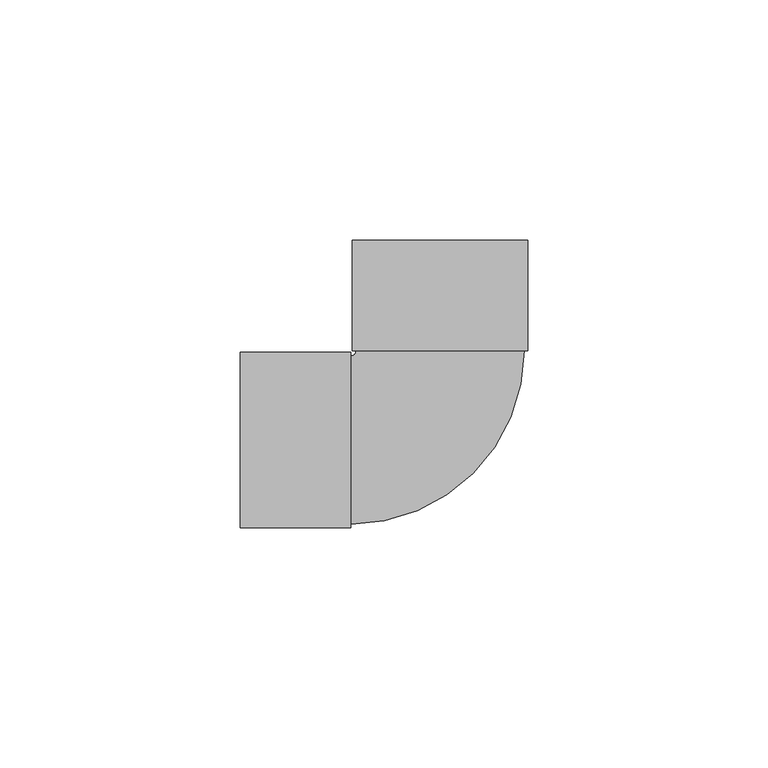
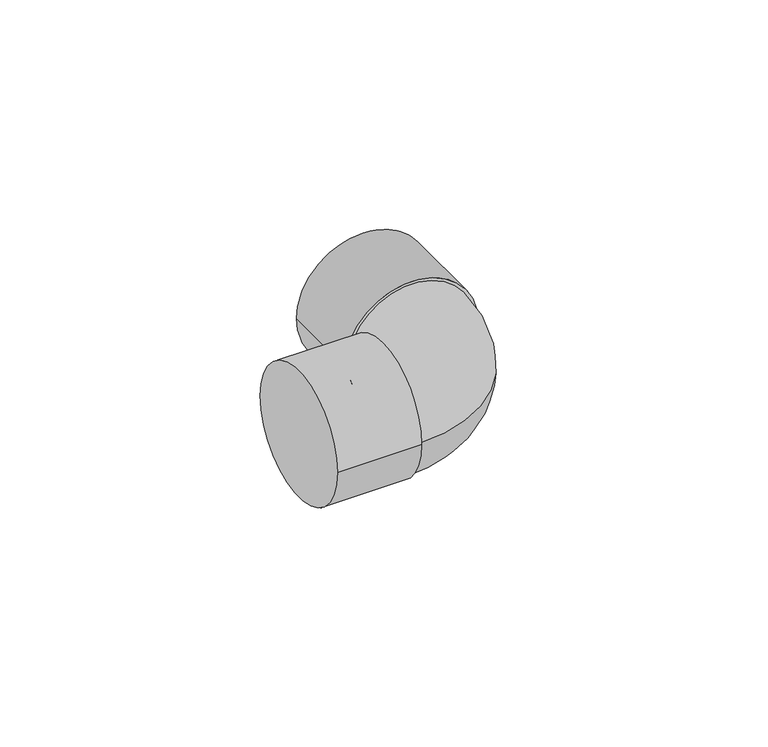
"""IFC4 building model written with IfcOpenShell, lengths in millimetres: pipe fitting geometry, Cotovelo - Soldado - CU : Padrão."""

from ifc_helpers import new_model, si_unit, point, frame, origin, place, context, project, spatial, circle_curve, ellipse_curve, trimmed, source, transform, mapped, element, save
from ifc_brep_helpers import plane_surface, cylinder_surface, revolved_surface, advanced_brep


def pipe_fitting_5d8e22a1(model_context):
    return source(origin(), model_context, "Body", "AdvancedBrep", [
        advanced_brep(
        [(-17.5004168, 18.5996078, 0.0), (-18.6, 17.5, 0.0), (-18.6, -17.5, 0.0), (17.4995832, 18.6003922, 0.0), (-41.6, -18.28, 0.0), (-41.6, 18.28, 0.0), (-18.6, -18.28, 0.0), (-18.6, 18.28, 0.0), (-18.2809322, 41.5995904, 0.0), (18.2790678, 41.6004096, 0.0), (-18.2804168, 18.5995904, 0.0), (18.2795832, 18.6004096, 0.0)],
        [
            (0, 1, circle_curve(frame((-18.6, 18.5995832, 0.0), z_axis=(0.0, 0.0, -1.0), x_axis=(0.0, -1.0, 0.0)), 1.0995832)),
            (1, 2, circle_curve(frame((-18.6, 0.0, 0.0), z_axis=(1.0, 0.0, 0.0), x_axis=(0.0, 1.0, 0.0)), 17.5)),
            (2, 3, circle_curve(frame((-18.6, 18.5995832, 0.0), z_axis=(0.0, 0.0, 1.0), x_axis=(0.0, -1.0, 0.0)), 36.0995832)),
            (3, 0, circle_curve(frame((-0.0004168, 18.6, 0.0), z_axis=(2.240903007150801e-05, -0.9999999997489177, 0.0), x_axis=(-0.9999999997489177, -2.240903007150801e-05, 0.0)), 17.5)),
            (0, 3, circle_curve(frame((-0.0004168, 18.6, 0.0), z_axis=(2.240903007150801e-05, -0.9999999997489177, 0.0), x_axis=(-0.9999999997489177, -2.240903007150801e-05, 0.0)), 17.5)),
            (2, 1, circle_curve(frame((-18.6, 0.0, 0.0), z_axis=(1.0, 0.0, 0.0), x_axis=(0.0, 1.0, 0.0)), 17.5)),
            (4, 5, circle_curve(frame((-41.6, 0.0, 0.0), z_axis=(-1.0, 0.0, 0.0), x_axis=(0.0, 1.0, 0.0)), 18.28)),
            (5, 4, circle_curve(frame((-41.6, 0.0, 0.0), z_axis=(-1.0, 0.0, 0.0), x_axis=(0.0, 1.0, 0.0)), 18.28)),
            (6, 7, circle_curve(frame((-18.6, 0.0, 0.0), z_axis=(1.0, 0.0, 0.0), x_axis=(0.0, 1.0, 0.0)), 18.28)),
            (7, 6, circle_curve(frame((-18.6, 0.0, 0.0), z_axis=(1.0, 0.0, 0.0), x_axis=(0.0, 1.0, 0.0)), 18.28)),
            (4, 6),
            (7, 5),
            (8, 9, circle_curve(frame((-0.0009322, 41.6, 0.0), z_axis=(-2.2409030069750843e-05, 0.9999999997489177, 0.0), x_axis=(0.9999999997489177, 2.2409030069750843e-05, 0.0)), 18.28)),
            (9, 8, circle_curve(frame((-0.0009322, 41.6, 0.0), z_axis=(-2.2409030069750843e-05, 0.9999999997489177, 0.0), x_axis=(0.9999999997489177, 2.2409030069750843e-05, 0.0)), 18.28)),
            (10, 11, circle_curve(frame((-0.0004168, 18.6, 0.0), z_axis=(2.2409030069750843e-05, -0.9999999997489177, 0.0), x_axis=(0.9999999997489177, 2.2409030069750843e-05, 0.0)), 18.28)),
            (11, 10, circle_curve(frame((-0.0004168, 18.6, 0.0), z_axis=(2.2409030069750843e-05, -0.9999999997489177, 0.0), x_axis=(0.9999999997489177, 2.2409030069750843e-05, 0.0)), 18.28)),
            (8, 10),
            (11, 9),
        ],
        [
            revolved_surface(trimmed(ellipse_curve(frame((-18.6, 0.0, 0.0), z_axis=(-1.0, 0.0, 0.0), x_axis=(0.0, 1.0, 0.0)), 17.5, 17.5), [point((-18.6, -17.5, 0.0))], [point((-18.6, 17.5, 0.0))], True, "CARTESIAN"), (-18.6, 18.5995832, 0.0), (0.0, 0.0, 1.0)),
            revolved_surface(trimmed(ellipse_curve(frame((-18.6, 0.0, 0.0), z_axis=(-1.0, 0.0, 0.0), x_axis=(0.0, 1.0, 0.0)), 17.5, 17.5), [point((-18.6, 17.5, 0.0))], [point((-18.6, -17.5, 0.0))], True, "CARTESIAN"), (-18.6, 18.5995832, 0.0), (0.0, 0.0, 1.0)),
            plane_surface(frame((-41.6, 0.0, 0.0), z_axis=(-1.0, 0.0, 0.0), x_axis=(0.0, 0.0, 1.0))),
            plane_surface(frame((-18.6, 0.0, 0.0), z_axis=(1.0, 0.0, 0.0), x_axis=(0.0, 0.0, 1.0))),
            cylinder_surface(frame((-41.6, 0.0, 0.0), z_axis=(-1.0, 0.0, 0.0), x_axis=(0.0, 1.0, 0.0)), 18.28),
            plane_surface(frame((-0.0009322, 41.6, 0.0), z_axis=(-2.2409030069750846e-05, 0.9999999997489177, 0.0), x_axis=(0.0, 0.0, 1.0))),
            plane_surface(frame((-0.0004168, 18.6, 0.0), z_axis=(2.2409030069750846e-05, -0.9999999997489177, 0.0), x_axis=(0.0, 0.0, 1.0))),
            cylinder_surface(frame((-0.0009322, 41.6, 0.0), z_axis=(-2.2409030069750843e-05, 0.9999999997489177, 0.0), x_axis=(0.9999999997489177, 2.2409030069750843e-05, 0.0)), 18.28),
        ],
        [
            (0, [[1, 2, 3, 4]]),
            (1, [[-1, 5, -3, 6]]),
            (2, [[7, 8]]),
            (3, [[9, 10], [-2, -6]]),
            (4, [[-7, 11, -10, 12]]),
            (4, [[-8, -12, -9, -11]]),
            (5, [[13, 14]]),
            (6, [[15, 16], [-4, -5]]),
            (7, [[-13, 17, -16, 18]]),
            (7, [[-14, -18, -15, -17]]),
        ],
    ),
    ])


if __name__ == "__main__":
    model = new_model("IFC4")
    model_context = context("Model", 3, world=origin())
    ifc_project = project(units=[si_unit("LENGTHUNIT", "METRE", prefix="MILLI")], contexts=[model_context])
    site = spatial("IfcSite", under=ifc_project)
    building = spatial("IfcBuilding", under=site)
    placement = place(None, origin())
    pipe_fitting_shape = pipe_fitting_5d8e22a1(model_context)
    element("IfcPipeFitting", 1, ObjectType="Cotovelo - Soldado - CU : Padrão", at=placement, inside=building, context=model_context, shape_type="MappedRepresentation", body=[
        mapped(pipe_fitting_shape, transform((0.0, 0.0, 0.0), x_axis=(1.0, 0.0, 0.0), y_axis=(0.0, 1.0, 0.0), z_axis=(0.0, 0.0, 1.0))),
    ])
    save(model, "model.ifc")
